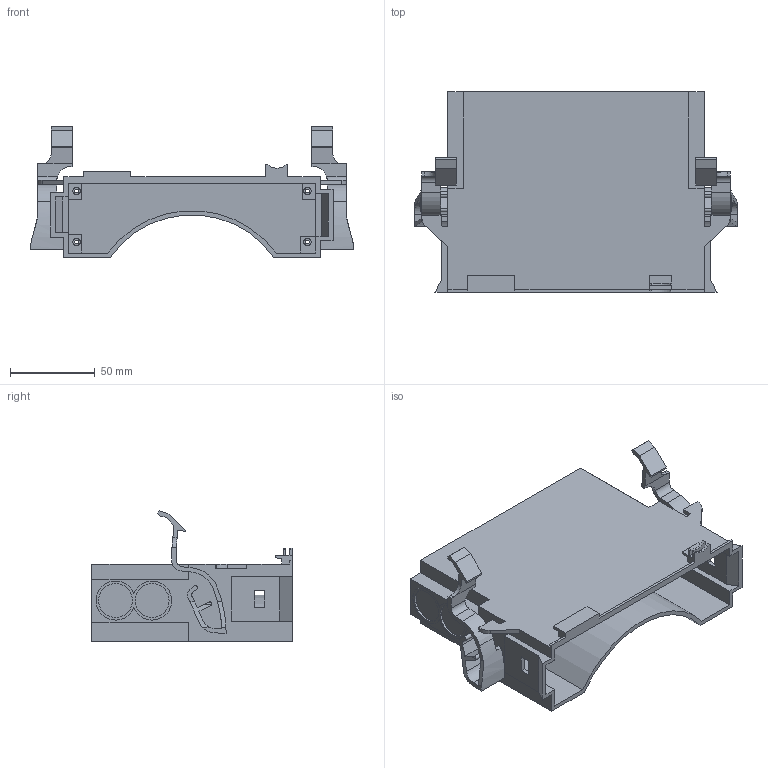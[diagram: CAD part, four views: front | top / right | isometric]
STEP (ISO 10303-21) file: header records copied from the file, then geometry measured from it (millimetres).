
FILE_DESCRIPTION(/* description */ (''),/* implementation_level */ '2;1');
FILE_NAME(/* name */ '116099.stp',/* time_stamp */ '2025-09-01T08:16:47+02:00',/* author */ ('JANAN'),/* organization */ (''),/* preprocessor_version */ 'ST-DEVELOPER v19.2',/* originating_system */ 'Autodesk Inventor 2023',/* authorisation */ '');
FILE_SCHEMA (('AUTOMOTIVE_DESIGN { 1 0 10303 214 3 1 1 }'));
Length unit declared in the file: millimetre
Products named in the file (1): tmp4E77.tmp
Bounding box: 190 x 118 x 76.97 mm (x, y, z)
Volume: 131964 mm3; surface area: 117983.6 mm2
Topology: 1 solids, 1 shells, 243 faces, 684 edges, 456 vertices
Faces by surface type: plane 187, cylinder 56
Full cylindrical faces by diameter (mm): 2.2 x4, 4.4 x4, 20 x4
Entity records: 8157 total; most frequent: CARTESIAN_POINT 1435, ORIENTED_EDGE 1368, DIRECTION 1296, EDGE_CURVE 684, LINE 548, VECTOR 548, VERTEX_POINT 456, AXIS2_PLACEMENT_3D 374
